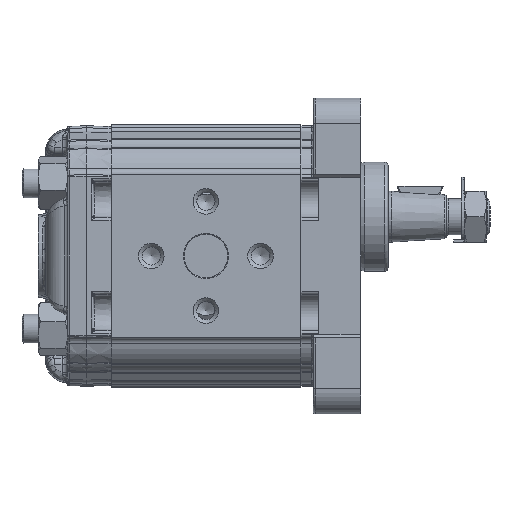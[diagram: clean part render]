
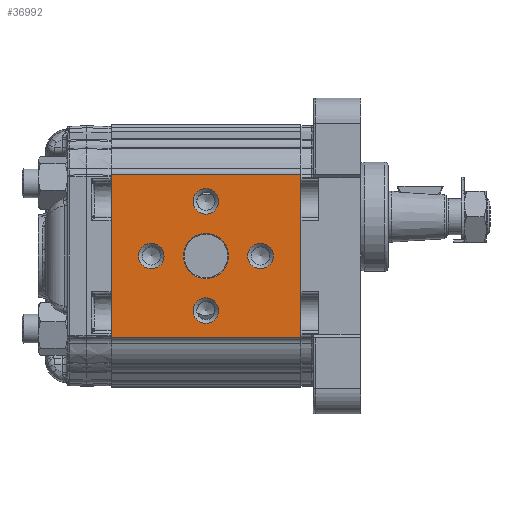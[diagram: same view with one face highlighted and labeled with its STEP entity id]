
A CAD part, left-side view. The second image highlights one B-rep face of the part: STEP entity #36992.
In plain terms, the highlighted planar face has unit normal (-1, 0, 0).
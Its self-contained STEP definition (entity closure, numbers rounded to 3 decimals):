
#1637=LINE('',#53855,#2866);
#1647=LINE('',#53956,#2876);
#1666=LINE('',#54004,#2895);
#1667=LINE('',#54006,#2896);
#2866=VECTOR('',#44650,1000.);
#2876=VECTOR('',#44742,1000.);
#2895=VECTOR('',#44797,1000.);
#2896=VECTOR('',#44800,1000.);
#8259=ORIENTED_EDGE('',*,*,#14138,.T.);
#8260=ORIENTED_EDGE('',*,*,#14139,.T.);
#8261=ORIENTED_EDGE('',*,*,#14140,.T.);
#8262=ORIENTED_EDGE('',*,*,#14141,.T.);
#8263=ORIENTED_EDGE('',*,*,#14142,.T.);
#8264=ORIENTED_EDGE('',*,*,#14118,.T.);
#8265=ORIENTED_EDGE('',*,*,#14090,.T.);
#8266=ORIENTED_EDGE('',*,*,#14119,.T.);
#8267=ORIENTED_EDGE('',*,*,#14040,.F.);
#14040=EDGE_CURVE('',#17253,#17254,#1637,.T.);
#14090=EDGE_CURVE('',#17304,#17303,#1647,.T.);
#14118=EDGE_CURVE('',#17253,#17304,#1666,.T.);
#14119=EDGE_CURVE('',#17303,#17254,#1667,.F.);
#14138=EDGE_CURVE('',#17323,#17323,#19356,.F.);
#14139=EDGE_CURVE('',#17324,#17324,#19357,.F.);
#14140=EDGE_CURVE('',#17325,#17325,#19358,.F.);
#14141=EDGE_CURVE('',#17326,#17326,#19359,.F.);
#14142=EDGE_CURVE('',#17327,#17327,#19360,.F.);
#17253=VERTEX_POINT('',#53854);
#17254=VERTEX_POINT('',#53856);
#17303=VERTEX_POINT('',#53955);
#17304=VERTEX_POINT('',#53957);
#17323=VERTEX_POINT('',#54129);
#17324=VERTEX_POINT('',#54131);
#17325=VERTEX_POINT('',#54133);
#17326=VERTEX_POINT('',#54135);
#17327=VERTEX_POINT('',#54137);
#19356=CIRCLE('',#39472,3.5);
#19357=CIRCLE('',#39473,3.5);
#19358=CIRCLE('',#39474,3.5);
#19359=CIRCLE('',#39475,3.5);
#19360=CIRCLE('',#39476,6.2);
#21081=EDGE_LOOP('',(#8259));
#21082=EDGE_LOOP('',(#8260));
#21083=EDGE_LOOP('',(#8261));
#21084=EDGE_LOOP('',(#8262));
#21085=EDGE_LOOP('',(#8263));
#21086=EDGE_LOOP('',(#8264,#8265,#8266,#8267));
#23054=FACE_BOUND('',#21081,.T.);
#23055=FACE_BOUND('',#21082,.T.);
#23056=FACE_BOUND('',#21083,.T.);
#23057=FACE_BOUND('',#21084,.T.);
#23058=FACE_BOUND('',#21085,.T.);
#23059=FACE_BOUND('',#21086,.T.);
#24324=PLANE('',#39471);
#36992=ADVANCED_FACE('',(#23054,#23055,#23056,#23057,#23058,#23059),#24324,
 .T.);
#39471=AXIS2_PLACEMENT_3D('',#54127,#44843,#44844);
#39472=AXIS2_PLACEMENT_3D('',#54128,#44845,#44846);
#39473=AXIS2_PLACEMENT_3D('',#54130,#44847,#44848);
#39474=AXIS2_PLACEMENT_3D('',#54132,#44849,#44850);
#39475=AXIS2_PLACEMENT_3D('',#54134,#44851,#44852);
#39476=AXIS2_PLACEMENT_3D('',#54136,#44853,#44854);
#44650=DIRECTION('',(0.,0.,1.));
#44742=DIRECTION('',(0.,0.,1.));
#44797=DIRECTION('',(0.,-1.,0.));
#44800=DIRECTION('',(0.,-1.,0.));
#44843=DIRECTION('',(-1.,0.,0.));
#44844=DIRECTION('',(0.,0.,1.));
#44845=DIRECTION('',(-1.,0.,0.));
#44846=DIRECTION('',(0.,0.,1.));
#44847=DIRECTION('',(-1.,0.,0.));
#44848=DIRECTION('',(0.,0.,1.));
#44849=DIRECTION('',(-1.,0.,0.));
#44850=DIRECTION('',(0.,0.,1.));
#44851=DIRECTION('',(-1.,0.,0.));
#44852=DIRECTION('',(0.,0.,1.));
#44853=DIRECTION('',(-1.,0.,0.));
#44854=DIRECTION('',(0.,0.,1.));
#53854=CARTESIAN_POINT('',(-33.,52.,-22.5));
#53855=CARTESIAN_POINT('',(-33.,52.,-21.711));
#53856=CARTESIAN_POINT('',(-33.,52.,22.5));
#53955=CARTESIAN_POINT('',(-33.,0.,22.5));
#53956=CARTESIAN_POINT('',(-33.,0.,-21.711));
#53957=CARTESIAN_POINT('',(-33.,0.,-22.5));
#54004=CARTESIAN_POINT('',(-33.,52.,-22.5));
#54006=CARTESIAN_POINT('',(-33.,52.,22.5));
#54127=CARTESIAN_POINT('',(-33.,128.714,48.138));
#54128=CARTESIAN_POINT('',(-33.,26.,-15.));
#54129=CARTESIAN_POINT('',(-33.,26.,-11.5));
#54130=CARTESIAN_POINT('',(-33.,11.,0.));
#54131=CARTESIAN_POINT('',(-33.,11.,3.5));
#54132=CARTESIAN_POINT('',(-33.,26.,15.));
#54133=CARTESIAN_POINT('',(-33.,26.,18.5));
#54134=CARTESIAN_POINT('',(-33.,41.,0.));
#54135=CARTESIAN_POINT('',(-33.,41.,3.5));
#54136=CARTESIAN_POINT('',(-33.,26.,0.));
#54137=CARTESIAN_POINT('',(-33.,26.,6.2));
